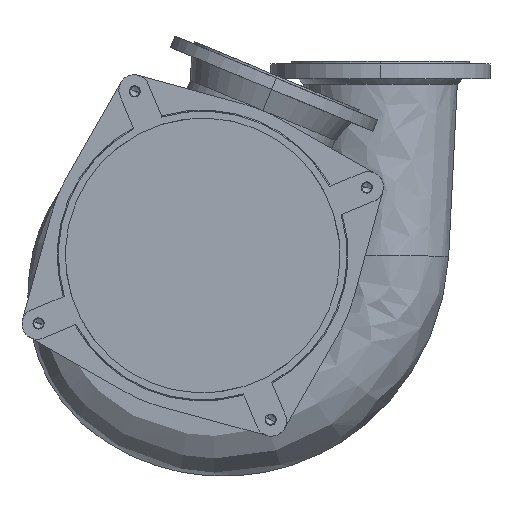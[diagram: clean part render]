
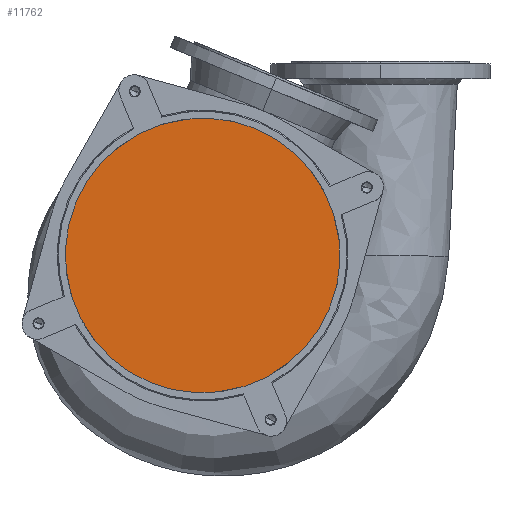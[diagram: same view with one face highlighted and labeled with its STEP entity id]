
A CAD part, front view. The second image highlights one B-rep face of the part: STEP entity #11762.
In plain terms, the highlighted planar face has unit normal (0, -1, 0).
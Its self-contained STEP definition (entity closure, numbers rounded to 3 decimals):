
#4664=CARTESIAN_POINT('',(0.,0.,0.));
#4665=DIRECTION('',(0.,-1.,0.));
#4666=DIRECTION('',(0.,0.,1.));
#4667=AXIS2_PLACEMENT_3D('',#4664,#4665,#4666);
#4669=CARTESIAN_POINT('',(0.,0.,0.));
#4670=DIRECTION('',(0.,-1.,0.));
#4671=DIRECTION('',(0.,0.,-1.));
#4672=AXIS2_PLACEMENT_3D('',#4669,#4670,#4671);
#10715=CARTESIAN_POINT('',(0.,0.,247.5));
#10716=CARTESIAN_POINT('',(0.,0.,-247.5));
#10717=VERTEX_POINT('',#10715);
#10718=VERTEX_POINT('',#10716);
#11751=CARTESIAN_POINT('',(0.,0.,0.));
#11752=DIRECTION('',(0.,1.,0.));
#11753=DIRECTION('',(0.,0.,-1.));
#11754=AXIS2_PLACEMENT_3D('',#11751,#11752,#11753);
#11755=PLANE('',#11754);
#11757=ORIENTED_EDGE('',*,*,#11756,.F.);
#11759=ORIENTED_EDGE('',*,*,#11758,.F.);
#11760=EDGE_LOOP('',(#11757,#11759));
#11761=FACE_OUTER_BOUND('',#11760,.F.);
#11762=ADVANCED_FACE('',(#11761),#11755,.F.);
#4668=CIRCLE('',#4667,247.5);
#4673=CIRCLE('',#4672,247.5);
#11756=EDGE_CURVE('',#10717,#10718,#4668,.T.);
#11758=EDGE_CURVE('',#10718,#10717,#4673,.T.);
